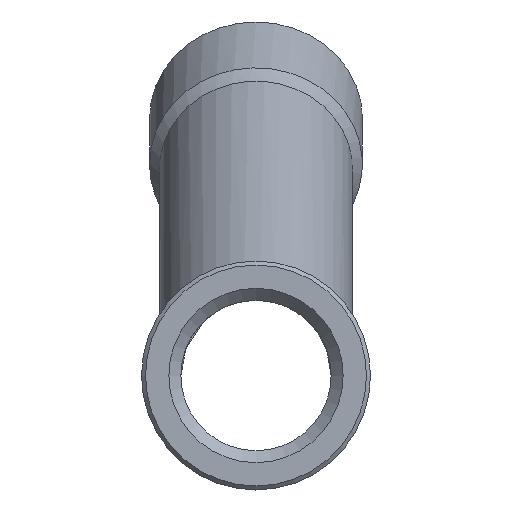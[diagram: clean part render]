
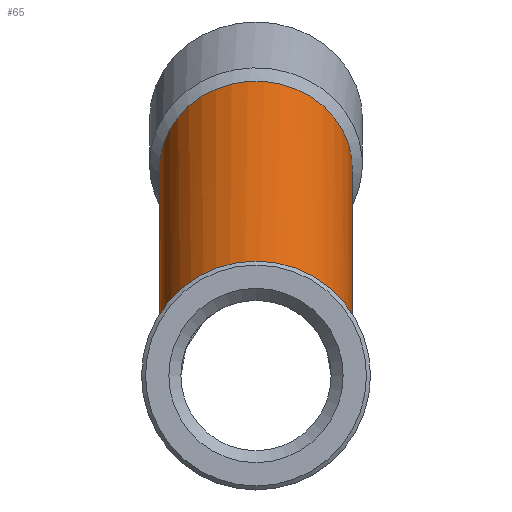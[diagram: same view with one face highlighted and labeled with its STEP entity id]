
A CAD part, front view. The second image highlights one B-rep face of the part: STEP entity #65.
In plain terms, the highlighted cylindrical face has radius 12 mm (diameter 24 mm), a partial arc.
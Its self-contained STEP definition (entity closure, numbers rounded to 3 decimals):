
#65=ADVANCED_FACE('',(#518),#520,.T.);
#518=FACE_BOUND('',#519,.T.);
#519=EDGE_LOOP('',(#2575,#2576,#2577,#2578,#2579,#2580));
#520=CYLINDRICAL_SURFACE('',#521,12.);
#521=AXIS2_PLACEMENT_3D('',#522,#523,#524);
#522=CARTESIAN_POINT('',(0.,0.,0.));
#523=DIRECTION('',(0.,0.906,0.423));
#524=DIRECTION('',(-1.,0.,0.));
#2575=ORIENTED_EDGE('',*,*,#4497,.F.);
#2576=ORIENTED_EDGE('',*,*,#4498,.T.);
#2577=ORIENTED_EDGE('',*,*,#4499,.T.);
#2578=ORIENTED_EDGE('',*,*,#4500,.T.);
#2579=ORIENTED_EDGE('',*,*,#4501,.F.);
#2580=ORIENTED_EDGE('',*,*,#4362,.F.);
#4362=EDGE_CURVE('',#5198,#5200,#5201,.F.);
#4497=EDGE_CURVE('',#5462,#5198,#5465,.T.);
#4498=EDGE_CURVE('',#5462,#5466,#5467,.F.);
#4499=EDGE_CURVE('',#5466,#5468,#5469,.T.);
#4500=EDGE_CURVE('',#5468,#5470,#5471,.F.);
#4501=EDGE_CURVE('',#5200,#5470,#5472,.F.);
#5198=VERTEX_POINT('',#6984);
#5200=VERTEX_POINT('',#6988);
#5201=CIRCLE('',#6989,12.);
#5462=VERTEX_POINT('',#8086);
#5465=LINE('',#8093,#8094);
#5466=VERTEX_POINT('',#8096);
#5467=(BOUNDED_CURVE()B_SPLINE_CURVE(3,
(#8097,#8098,#8099,#8100),
.UNSPECIFIED.,.F.,.F.)B_SPLINE_CURVE_WITH_KNOTS((4,4),
(0.,1.),
.UNSPECIFIED.)CURVE()GEOMETRIC_REPRESENTATION_ITEM()RATIONAL_B_SPLINE_CURVE((1.,
1.,1.,1.))REPRESENTATION_ITEM(''));
#5468=VERTEX_POINT('',#8101);
#5469=(BOUNDED_CURVE()B_SPLINE_CURVE(3,
(#8102,#8103,#8104,#8105),
.UNSPECIFIED.,.F.,.F.)B_SPLINE_CURVE_WITH_KNOTS((4,4),
(0.,1.),
.UNSPECIFIED.)CURVE()GEOMETRIC_REPRESENTATION_ITEM()RATIONAL_B_SPLINE_CURVE((1.,
0.333,0.333,1.))REPRESENTATION_ITEM(''));
#5470=VERTEX_POINT('',#8106);
#5471=(BOUNDED_CURVE()B_SPLINE_CURVE(3,
(#8107,#8108,#8109,#8110),
.UNSPECIFIED.,.F.,.F.)B_SPLINE_CURVE_WITH_KNOTS((4,4),
(0.,1.),
.UNSPECIFIED.)CURVE()GEOMETRIC_REPRESENTATION_ITEM()RATIONAL_B_SPLINE_CURVE((1.,
1.,1.,1.))REPRESENTATION_ITEM(''));
#5472=LINE('',#8111,#8112);
#6984=CARTESIAN_POINT('',(-11.984,55.505,25.189));
#6988=CARTESIAN_POINT('',(11.984,55.505,25.189));
#6989=AXIS2_PLACEMENT_3D('',#6990,#6991,#6992);
#6990=CARTESIAN_POINT('',(0.,55.239,25.759));
#6991=DIRECTION('',(0.,-0.906,-0.423));
#6992=DIRECTION('',(0.999,0.022,-0.047));
#8086=CARTESIAN_POINT('',(-11.984,2.833,0.628));
#8093=CARTESIAN_POINT('',(-11.984,2.833,0.628));
#8094=VECTOR('',#8095,1.);
#8095=DIRECTION('',(0.,0.906,0.423));
#8096=CARTESIAN_POINT('',(-12.,0.,0.));
#8097=CARTESIAN_POINT('',(-12.,0.,0.));
#8098=CARTESIAN_POINT('',(-12.,0.945,0.209));
#8099=CARTESIAN_POINT('',(-11.995,1.889,0.419));
#8100=CARTESIAN_POINT('',(-11.984,2.833,0.628));
#8101=CARTESIAN_POINT('',(12.,0.,0.));
#8102=CARTESIAN_POINT('',(-12.,0.,0.));
#8103=CARTESIAN_POINT('',(-12.,-5.321,24.));
#8104=CARTESIAN_POINT('',(12.,-5.321,24.));
#8105=CARTESIAN_POINT('',(12.,0.,0.));
#8106=CARTESIAN_POINT('',(11.984,2.833,0.628));
#8107=CARTESIAN_POINT('',(11.984,2.833,0.628));
#8108=CARTESIAN_POINT('',(11.995,1.889,0.419));
#8109=CARTESIAN_POINT('',(12.,0.945,0.209));
#8110=CARTESIAN_POINT('',(12.,0.,0.));
#8111=CARTESIAN_POINT('',(11.984,2.833,0.628));
#8112=VECTOR('',#8113,1.);
#8113=DIRECTION('',(0.,0.906,0.423));
